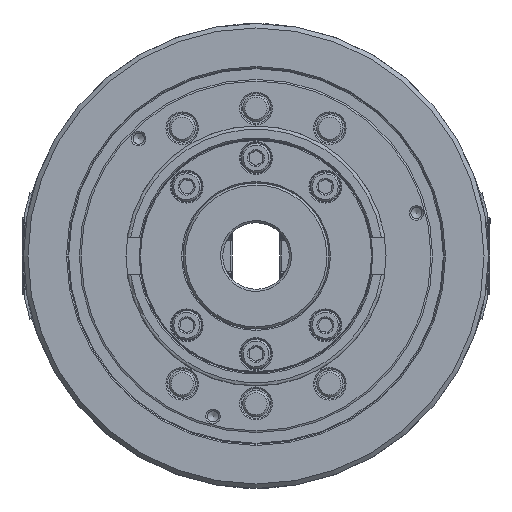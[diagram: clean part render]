
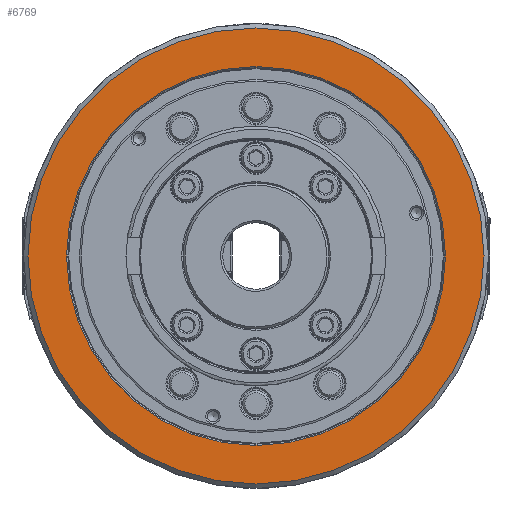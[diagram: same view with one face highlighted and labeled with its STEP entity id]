
A CAD part, left-side view. The second image highlights one B-rep face of the part: STEP entity #6769.
In plain terms, the highlighted planar face has unit normal (-1, 0, 0).
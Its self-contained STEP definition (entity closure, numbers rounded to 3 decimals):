
#548 = AXIS2_PLACEMENT_3D ( 'NONE', #48338, #41546, #28034 ) ;
#4556 = PLANE ( 'NONE',  #83251 ) ;
#6769 = ADVANCED_FACE ( 'NONE', ( #76466, #44280 ), #4556, .F. ) ;
#24402 = DIRECTION ( 'NONE',  ( 0., 0., -1. ) ) ;
#28034 = DIRECTION ( 'NONE',  ( 0., 0., -1. ) ) ;
#33408 = EDGE_LOOP ( 'NONE', ( #35988 ) ) ;
#34054 = CARTESIAN_POINT ( 'NONE',  ( -91., 0., 0. ) ) ;
#35988 = ORIENTED_EDGE ( 'NONE', *, *, #40436, .F. ) ;
#37103 = CARTESIAN_POINT ( 'NONE',  ( -91., -85.6, 0. ) ) ;
#38432 = VERTEX_POINT ( 'NONE', #64264 ) ;
#39733 = CIRCLE ( 'NONE', #548, 103. ) ;
#40436 = EDGE_CURVE ( 'NONE', #47390, #47390, #39733, .T. ) ;
#41546 = DIRECTION ( 'NONE',  ( 1., 0., 0. ) ) ;
#44280 = FACE_BOUND ( 'NONE', #71161, .T. ) ;
#46301 = AXIS2_PLACEMENT_3D ( 'NONE', #34054, #73021, #76566 ) ;
#47390 = VERTEX_POINT ( 'NONE', #80029 ) ;
#48338 = CARTESIAN_POINT ( 'NONE',  ( -91., 0., 0. ) ) ;
#51565 = ORIENTED_EDGE ( 'NONE', *, *, #58132, .T. ) ;
#58132 = EDGE_CURVE ( 'NONE', #38432, #38432, #73351, .T. ) ;
#64264 = CARTESIAN_POINT ( 'NONE',  ( -91., 0., -85.6 ) ) ;
#71161 = EDGE_LOOP ( 'NONE', ( #51565 ) ) ;
#73021 = DIRECTION ( 'NONE',  ( 1., 0., 0. ) ) ;
#73351 = CIRCLE ( 'NONE', #46301, 85.6 ) ;
#76466 = FACE_OUTER_BOUND ( 'NONE', #33408, .T. ) ;
#76566 = DIRECTION ( 'NONE',  ( 0., 0., -1. ) ) ;
#76874 = DIRECTION ( 'NONE',  ( 1., 0., 0. ) ) ;
#80029 = CARTESIAN_POINT ( 'NONE',  ( -91., 0., -103. ) ) ;
#83251 = AXIS2_PLACEMENT_3D ( 'NONE', #37103, #76874, #24402 ) ;
